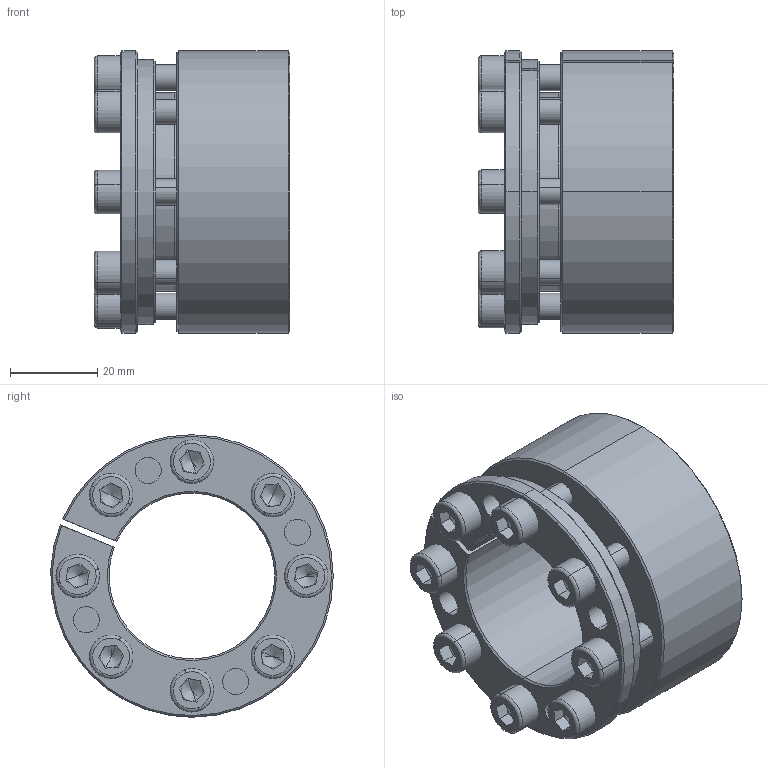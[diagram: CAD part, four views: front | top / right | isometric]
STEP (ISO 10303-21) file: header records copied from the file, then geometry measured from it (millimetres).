
FILE_DESCRIPTION (( 'STEP AP214' ), '1' );
FILE_NAME ('PL-H2 38-65.STEP', '2022-07-25T01:58:22', ( '' ), ( '' ), 'SwSTEP 2.0', 'SolidWorks 2022', '' );
FILE_SCHEMA (( 'AUTOMOTIVE_DESIGN' ));
Length unit declared in the file: millimetre
Products named in the file (1): PL-H2 38-65
Bounding box: 45 x 64.89 x 64.92 mm (x, y, z)
Volume: 72834.2 mm3; surface area: 27899.8 mm2
Topology: 1 solids, 1 shells, 299 faces, 733 edges, 452 vertices
Faces by surface type: plane 128, cylinder 87, cone 68, torus 16
Entity records: 8834 total; most frequent: DIRECTION 1634, CARTESIAN_POINT 1541, ORIENTED_EDGE 1434, EDGE_CURVE 717, AXIS2_PLACEMENT_3D 641, VERTEX_POINT 452, EDGE_LOOP 355, LINE 352
